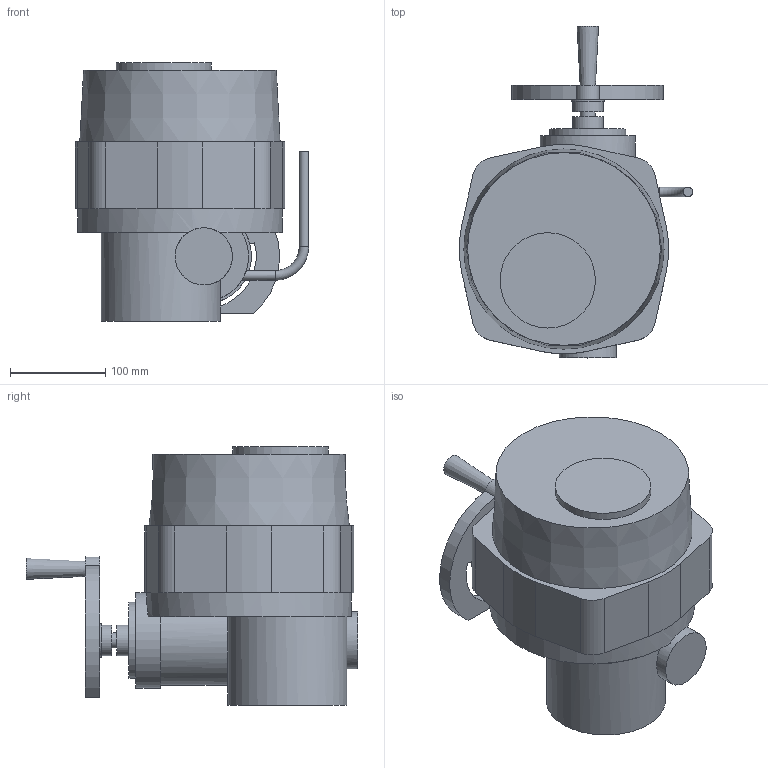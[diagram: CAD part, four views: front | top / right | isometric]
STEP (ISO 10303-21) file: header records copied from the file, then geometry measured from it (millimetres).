
FILE_DESCRIPTION(('STEP AP203'), '1');
FILE_NAME('Ýëåêòðîïðèâîä QT.A 020 áåç áëîêà óïðàâëåíèÿ', '', ('UNSPECIFIED'), ('UNSPECIFIED'), 'ASCON STEP Converter 1.6', 'ASCON Math Kernel', '');
FILE_SCHEMA(('CONFIG_CONTROL_DESIGN'));
Length unit declared in the file: millimetre
Bounding box: 244.71 x 348 x 271 mm (x, y, z)
Volume: 8546093.4 mm3; surface area: 327641.3 mm2
Topology: 1 solids, 1 shells, 90 faces, 200 edges, 132 vertices
Faces by surface type: plane 44, cylinder 42, cone 3, torus 1
Full cylindrical faces by diameter (mm): 6.7 x4, 8.5 x4, 10 x2, 16 x1, 20 x1, 32 x2, 35 x1, 60 x1, 80 x1, 100 x2, 125 x1, 215 x1
Entity records: 3689 total; most frequent: CARTESIAN_POINT 1008, DIRECTION 424, ORIENTED_EDGE 340, AXIS2_PLACEMENT_3D 175, EDGE_CURVE 170, EDGE_LOOP 138, VERTEX_POINT 128, FACE_BOUND 93
